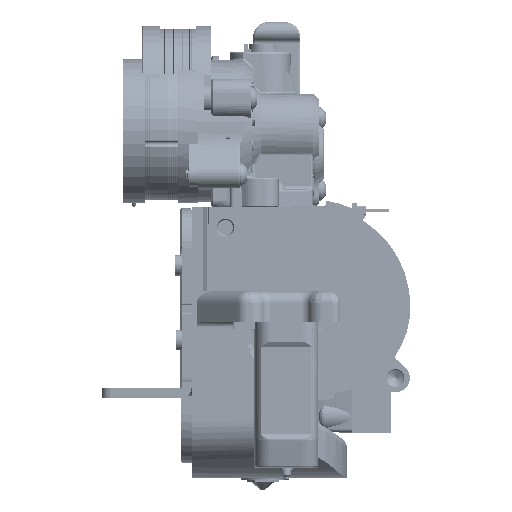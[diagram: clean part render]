
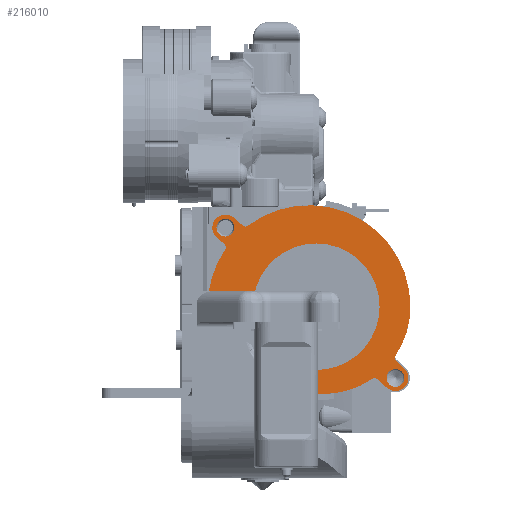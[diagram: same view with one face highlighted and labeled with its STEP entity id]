
A CAD part, left-side view. The second image highlights one B-rep face of the part: STEP entity #216010.
In plain terms, the highlighted planar face has unit normal (-1, 0, 0).
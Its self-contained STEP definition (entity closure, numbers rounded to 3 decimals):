
#14590=FACE_BOUND('',#51052,.T.);
#14591=FACE_BOUND('',#51053,.T.);
#14592=FACE_BOUND('',#51054,.T.);
#23683=CIRCLE('',#231705,22.068);
#23688=CIRCLE('',#231719,2.25);
#23690=CIRCLE('',#231722,2.25);
#23691=CIRCLE('',#231724,16.);
#23693=CIRCLE('',#231728,1.);
#23695=CIRCLE('',#231731,25.65);
#23697=CIRCLE('',#231734,22.068);
#23699=CIRCLE('',#231737,1.);
#23701=CIRCLE('',#231741,3.3);
#23703=CIRCLE('',#231745,1.);
#23704=CIRCLE('',#231747,2.);
#23707=CIRCLE('',#231753,25.65);
#23709=CIRCLE('',#231756,1.);
#23711=CIRCLE('',#231760,3.3);
#37065=FACE_OUTER_BOUND('',#51051,.T.);
#51051=EDGE_LOOP('',(#153463,#153464,#153465,#153466,#153467,#153468,#153469,
#153470,#153471,#153472,#153473,#153474,#153475,#153476,#153477,#153478,
#153479,#153480));
#51052=EDGE_LOOP('',(#153481));
#51053=EDGE_LOOP('',(#153482));
#51054=EDGE_LOOP('',(#153483));
#66201=LINE('',#336521,#77521);
#66211=LINE('',#336560,#77531);
#66218=LINE('',#336590,#77538);
#66222=LINE('',#336602,#77542);
#66226=LINE('',#336617,#77546);
#66229=LINE('',#336621,#77549);
#66233=LINE('',#336638,#77553);
#77521=VECTOR('',#261502,1000.);
#77531=VECTOR('',#261542,1000.);
#77538=VECTOR('',#261575,1000.);
#77542=VECTOR('',#261587,1000.);
#77546=VECTOR('',#261605,1000.);
#77549=VECTOR('',#261610,1000.);
#77553=VECTOR('',#261628,1000.);
#89618=VERTEX_POINT('',#336489);
#89619=VERTEX_POINT('',#336491);
#89628=VERTEX_POINT('',#336518);
#89629=VERTEX_POINT('',#336520);
#89636=VERTEX_POINT('',#336540);
#89638=VERTEX_POINT('',#336546);
#89639=VERTEX_POINT('',#336550);
#89642=VERTEX_POINT('',#336557);
#89643=VERTEX_POINT('',#336559);
#89645=VERTEX_POINT('',#336565);
#89647=VERTEX_POINT('',#336571);
#89649=VERTEX_POINT('',#336577);
#89651=VERTEX_POINT('',#336583);
#89653=VERTEX_POINT('',#336589);
#89655=VERTEX_POINT('',#336595);
#89657=VERTEX_POINT('',#336601);
#89658=VERTEX_POINT('',#336608);
#89661=VERTEX_POINT('',#336616);
#89663=VERTEX_POINT('',#336625);
#89665=VERTEX_POINT('',#336631);
#89667=VERTEX_POINT('',#336637);
#112982=EDGE_CURVE('',#89619,#89618,#23683,.T.);
#112996=EDGE_CURVE('',#89629,#89628,#66201,.T.);
#113006=EDGE_CURVE('',#89636,#89636,#23688,.T.);
#113009=EDGE_CURVE('',#89638,#89638,#23690,.T.);
#113011=EDGE_CURVE('',#89639,#89639,#23691,.T.);
#113014=EDGE_CURVE('',#89643,#89642,#66211,.T.);
#113017=EDGE_CURVE('',#89645,#89643,#23693,.T.);
#113020=EDGE_CURVE('',#89647,#89645,#23695,.T.);
#113023=EDGE_CURVE('',#89649,#89647,#23697,.T.);
#113026=EDGE_CURVE('',#89651,#89649,#23699,.T.);
#113029=EDGE_CURVE('',#89653,#89651,#66218,.T.);
#113032=EDGE_CURVE('',#89655,#89653,#23701,.T.);
#113035=EDGE_CURVE('',#89657,#89655,#66222,.T.);
#113038=EDGE_CURVE('',#89618,#89657,#23703,.T.);
#113039=EDGE_CURVE('',#89658,#89619,#23704,.T.);
#113043=EDGE_CURVE('',#89661,#89658,#66226,.T.);
#113046=EDGE_CURVE('',#89628,#89661,#66229,.T.);
#113048=EDGE_CURVE('',#89663,#89629,#23707,.T.);
#113051=EDGE_CURVE('',#89665,#89663,#23709,.T.);
#113054=EDGE_CURVE('',#89667,#89665,#66233,.T.);
#113057=EDGE_CURVE('',#89642,#89667,#23711,.T.);
#153463=ORIENTED_EDGE('',*,*,#113057,.T.);
#153464=ORIENTED_EDGE('',*,*,#113054,.T.);
#153465=ORIENTED_EDGE('',*,*,#113051,.T.);
#153466=ORIENTED_EDGE('',*,*,#113048,.T.);
#153467=ORIENTED_EDGE('',*,*,#112996,.T.);
#153468=ORIENTED_EDGE('',*,*,#113046,.T.);
#153469=ORIENTED_EDGE('',*,*,#113043,.T.);
#153470=ORIENTED_EDGE('',*,*,#113039,.T.);
#153471=ORIENTED_EDGE('',*,*,#112982,.T.);
#153472=ORIENTED_EDGE('',*,*,#113038,.T.);
#153473=ORIENTED_EDGE('',*,*,#113035,.T.);
#153474=ORIENTED_EDGE('',*,*,#113032,.T.);
#153475=ORIENTED_EDGE('',*,*,#113029,.T.);
#153476=ORIENTED_EDGE('',*,*,#113026,.T.);
#153477=ORIENTED_EDGE('',*,*,#113023,.T.);
#153478=ORIENTED_EDGE('',*,*,#113020,.T.);
#153479=ORIENTED_EDGE('',*,*,#113017,.T.);
#153480=ORIENTED_EDGE('',*,*,#113014,.T.);
#153481=ORIENTED_EDGE('',*,*,#113011,.T.);
#153482=ORIENTED_EDGE('',*,*,#113009,.T.);
#153483=ORIENTED_EDGE('',*,*,#113006,.T.);
#211377=PLANE('',#231761);
#216010=ADVANCED_FACE('',(#37065,#14590,#14591,#14592),#211377,.F.);
#231705=AXIS2_PLACEMENT_3D('',#336492,#261477,#261478);
#231719=AXIS2_PLACEMENT_3D('',#336542,#261524,#261525);
#231722=AXIS2_PLACEMENT_3D('',#336548,#261531,#261532);
#231724=AXIS2_PLACEMENT_3D('',#336552,#261536,#261537);
#231728=AXIS2_PLACEMENT_3D('',#336566,#261548,#261549);
#231731=AXIS2_PLACEMENT_3D('',#336572,#261555,#261556);
#231734=AXIS2_PLACEMENT_3D('',#336578,#261562,#261563);
#231737=AXIS2_PLACEMENT_3D('',#336584,#261569,#261570);
#231741=AXIS2_PLACEMENT_3D('',#336596,#261581,#261582);
#231745=AXIS2_PLACEMENT_3D('',#336606,#261593,#261594);
#231747=AXIS2_PLACEMENT_3D('',#336609,#261597,#261598);
#231753=AXIS2_PLACEMENT_3D('',#336626,#261615,#261616);
#231756=AXIS2_PLACEMENT_3D('',#336632,#261622,#261623);
#231760=AXIS2_PLACEMENT_3D('',#336642,#261634,#261635);
#231761=AXIS2_PLACEMENT_3D('',#336643,#261636,#261637);
#261477=DIRECTION('center_axis',(-1.,0.,0.));
#261478=DIRECTION('ref_axis',(0.,0.,
1.));
#261502=DIRECTION('',(0.,0.,-1.));
#261524=DIRECTION('center_axis',(1.,0.,0.));
#261525=DIRECTION('ref_axis',(0.,0.,
-1.));
#261531=DIRECTION('center_axis',(1.,0.,0.));
#261532=DIRECTION('ref_axis',(0.,0.,
-1.));
#261536=DIRECTION('center_axis',(1.,0.,0.));
#261537=DIRECTION('ref_axis',(0.,0.,
-1.));
#261542=DIRECTION('',(0.,0.749,0.662));
#261548=DIRECTION('center_axis',(1.,0.,0.));
#261549=DIRECTION('ref_axis',(0.,0.,
-1.));
#261555=DIRECTION('center_axis',(-1.,0.,0.));
#261556=DIRECTION('ref_axis',(0.,0.,
-1.));
#261562=DIRECTION('center_axis',(-1.,0.,0.));
#261563=DIRECTION('ref_axis',(0.,0.,
1.));
#261569=DIRECTION('center_axis',(1.,0.,0.));
#261570=DIRECTION('ref_axis',(0.,0.,
1.));
#261575=DIRECTION('',(0.,0.749,0.662));
#261581=DIRECTION('center_axis',(-1.,0.,0.));
#261582=DIRECTION('ref_axis',(0.,0.,
1.));
#261587=DIRECTION('',(0.,-0.749,-0.662));
#261593=DIRECTION('center_axis',(1.,0.,0.));
#261594=DIRECTION('ref_axis',(0.,0.,
-1.));
#261597=DIRECTION('center_axis',(1.,0.,0.));
#261598=DIRECTION('ref_axis',(0.,0.,
-1.));
#261605=DIRECTION('',(0.,0.,1.));
#261610=DIRECTION('',(0.,-1.,0.));
#261615=DIRECTION('center_axis',(-1.,0.,0.));
#261616=DIRECTION('ref_axis',(0.,0.,
-1.));
#261622=DIRECTION('center_axis',(1.,0.,0.));
#261623=DIRECTION('ref_axis',(0.,0.,
1.));
#261628=DIRECTION('',(0.,-0.749,-0.662));
#261634=DIRECTION('center_axis',(-1.,0.,0.));
#261635=DIRECTION('ref_axis',(0.,0.,
1.));
#261636=DIRECTION('center_axis',(1.,0.,0.));
#261637=DIRECTION('ref_axis',(0.,0.,
1.));
#336489=CARTESIAN_POINT('',(-41.193,-35.212,28.106));
#336491=CARTESIAN_POINT('',(-41.193,-16.161,25.299));
#336492=CARTESIAN_POINT('Origin',(-41.193,-22.792,46.347));
#336518=CARTESIAN_POINT('',(-41.193,6.44,20.947));
#336520=CARTESIAN_POINT('',(-41.193,6.44,46.347));
#336521=CARTESIAN_POINT('',(-41.193,6.44,20.947));
#336540=CARTESIAN_POINT('',(-41.193,1.94,68.597));
#336542=CARTESIAN_POINT('Origin',(-41.193,1.94,66.347));
#336546=CARTESIAN_POINT('',(-41.193,-41.06,30.597));
#336548=CARTESIAN_POINT('Origin',(-41.193,-41.06,28.347));
#336550=CARTESIAN_POINT('',(-41.193,-21.06,62.347));
#336552=CARTESIAN_POINT('Origin',(-41.193,-21.06,46.347));
#336557=CARTESIAN_POINT('',(-41.193,-0.245,68.82));
#336559=CARTESIAN_POINT('',(-41.193,-2.461,66.861));
#336560=CARTESIAN_POINT('',(-41.193,-0.245,68.82));
#336565=CARTESIAN_POINT('',(-41.193,-3.727,66.814));
#336566=CARTESIAN_POINT('Origin',(-41.193,-3.123,67.611));
#336571=CARTESIAN_POINT('',(-41.193,-44.86,46.347));
#336572=CARTESIAN_POINT('Origin',(-41.193,-19.21,46.364));
#336577=CARTESIAN_POINT('',(-41.193,-41.039,33.936));
#336578=CARTESIAN_POINT('Origin',(-41.193,-22.792,46.347));
#336583=CARTESIAN_POINT('',(-41.193,-41.204,32.624));
#336584=CARTESIAN_POINT('Origin',(-41.193,-41.866,33.373));
#336589=CARTESIAN_POINT('',(-41.193,-43.245,30.82));
#336590=CARTESIAN_POINT('',(-41.193,-43.245,30.82));
#336595=CARTESIAN_POINT('',(-41.193,-38.875,25.874));
#336596=CARTESIAN_POINT('Origin',(-41.193,-41.06,28.347));
#336601=CARTESIAN_POINT('',(-41.193,-36.437,28.028));
#336602=CARTESIAN_POINT('',(-41.193,-38.875,25.874));
#336606=CARTESIAN_POINT('Origin',(-41.193,-35.775,27.279));
#336608=CARTESIAN_POINT('',(-41.193,-13.56,23.391));
#336609=CARTESIAN_POINT('Origin',(-41.193,-15.56,23.391));
#336616=CARTESIAN_POINT('',(-41.193,-13.56,20.947));
#336617=CARTESIAN_POINT('',(-41.193,-13.56,20.947));
#336621=CARTESIAN_POINT('',(-41.193,6.44,20.947));
#336625=CARTESIAN_POINT('',(-41.193,1.983,60.813));
#336626=CARTESIAN_POINT('Origin',(-41.193,-19.21,46.364));
#336631=CARTESIAN_POINT('',(-41.193,2.147,62.126));
#336632=CARTESIAN_POINT('Origin',(-41.193,2.809,61.376));
#336637=CARTESIAN_POINT('',(-41.193,4.125,63.874));
#336638=CARTESIAN_POINT('',(-41.193,4.125,63.874));
#336642=CARTESIAN_POINT('Origin',(-41.193,1.94,66.347));
#336643=CARTESIAN_POINT('Origin',(-41.193,1.94,66.347));
